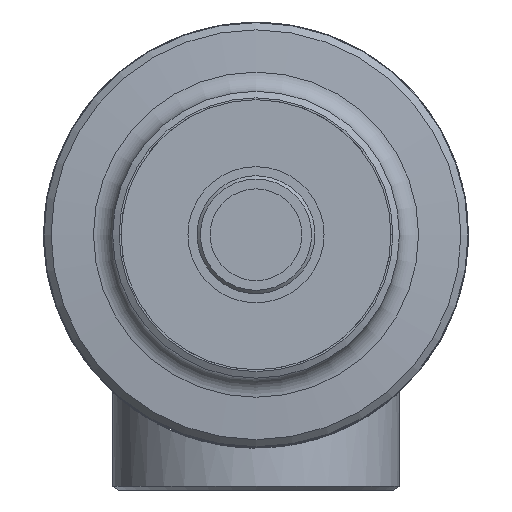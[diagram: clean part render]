
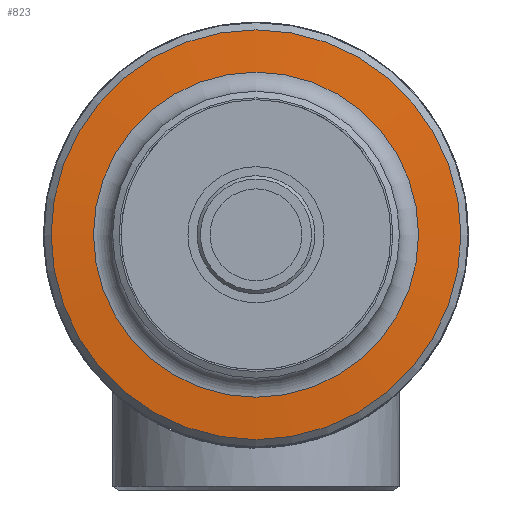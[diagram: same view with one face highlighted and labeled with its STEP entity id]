
A CAD part, front view. The second image highlights one B-rep face of the part: STEP entity #823.
In plain terms, the highlighted conical face has half-angle 85 degrees and reference radius 162 mm.
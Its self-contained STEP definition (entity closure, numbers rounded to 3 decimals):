
#733=CARTESIAN_POINT('',(0.0,-23.722,-124.156));
#734=VERTEX_POINT('',#733);
#735=CARTESIAN_POINT('',(0.0,-23.722,0.0));
#736=DIRECTION('',(0.0,-1.0,0.0));
#737=DIRECTION('',(0.0,0.0,-1.0));
#738=AXIS2_PLACEMENT_3D('',#735,#736,#737);
#739=CIRCLE('',#738,124.156);
#740=EDGE_CURVE('',#734,#734,#739,.F.);
#804=CARTESIAN_POINT('',(0.0,-20.411,0.0));
#805=DIRECTION('',(0.0,1.0,0.0));
#806=DIRECTION('',(0.0,0.0,1.0));
#807=AXIS2_PLACEMENT_3D('',#804,#805,#806);
#808=CONICAL_SURFACE('',#807,162.0,85.);
#809=CARTESIAN_POINT('',(0.0,-20.891,-156.521));
#810=VERTEX_POINT('',#809);
#811=CARTESIAN_POINT('',(0.0,-20.891,0.0));
#812=DIRECTION('',(0.0,-1.0,0.0));
#813=DIRECTION('',(0.0,0.0,-1.0));
#814=AXIS2_PLACEMENT_3D('',#811,#812,#813);
#815=CIRCLE('',#814,156.521);
#816=EDGE_CURVE('',#810,#810,#815,.T.);
#817=ORIENTED_EDGE('',*,*,#816,.T.);
#818=EDGE_LOOP('',(#817));
#819=FACE_OUTER_BOUND('',#818,.T.);
#820=ORIENTED_EDGE('',*,*,#740,.T.);
#821=EDGE_LOOP('',(#820));
#822=FACE_BOUND('',#821,.T.);
#823=ADVANCED_FACE('',(#819,#822),#808,.T.);
